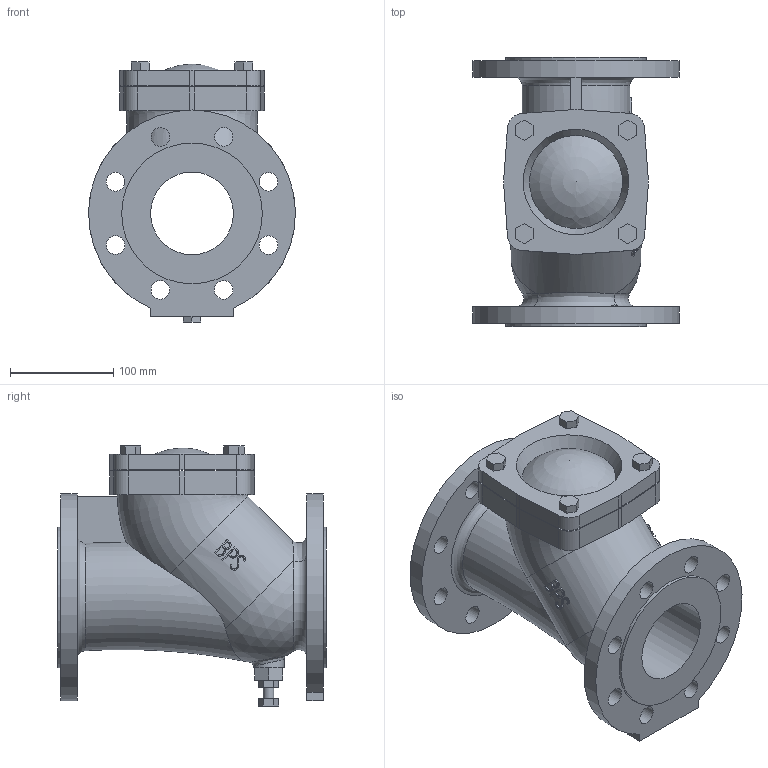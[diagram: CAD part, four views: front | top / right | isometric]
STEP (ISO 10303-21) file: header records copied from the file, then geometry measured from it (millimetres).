
FILE_DESCRIPTION( ( 'Unknown' ), '1' );
FILE_NAME( 'J:/Muud/ROOTSI BPS 3D vidinad/Kuuliga tagasiloogiklapid/STEP formaat/BPS 6538080 ball check valve DN80.stp', 'Unknown', ( 'Unknown' ), ( 'Unknown' ), 'PSStep 10.1', 'Unknown', ' ' );
FILE_SCHEMA( ( 'AUTOMOTIVE_DESIGN { 1 0 10303 214 1 1 1 1 }' ) );
Length unit declared in the file: millimetre
Products named in the file (2): 1; 2
Bounding box: 200 x 260 x 251.41 mm (x, y, z)
Volume: 3311194.9 mm3; surface area: 380649.8 mm2
Topology: 2 solids, 2 shells, 308 faces, 783 edges, 523 vertices
Faces by surface type: plane 163, cylinder 75, bspline 63, torus 4, sphere 2, cone 1
Full cylindrical faces by diameter (mm): 10 x1, 11 x8, 17.294 x1, 18 x16, 30 x1, 80 x1, 136 x2, 200 x1
Entity records: 24736 total; most frequent: CARTESIAN_POINT 15846, ORIENTED_EDGE 1432, DIRECTION 953, EDGE_CURVE 716, VERTEX_POINT 500, EDGE_LOOP 438, B_SPLINE_CURVE_WITH_KNOTS 378, AXIS2_PLACEMENT_3D 368
